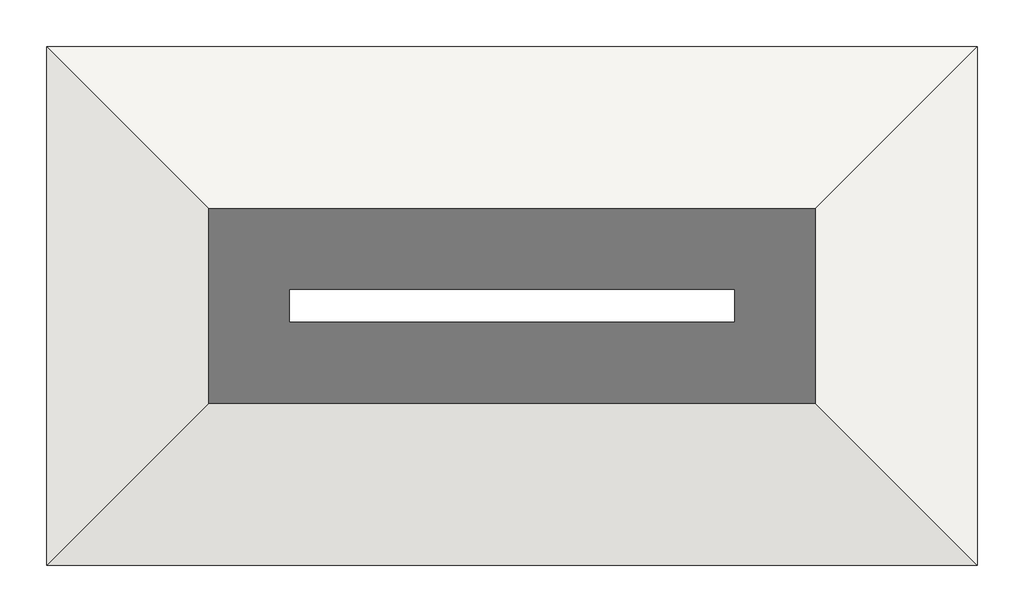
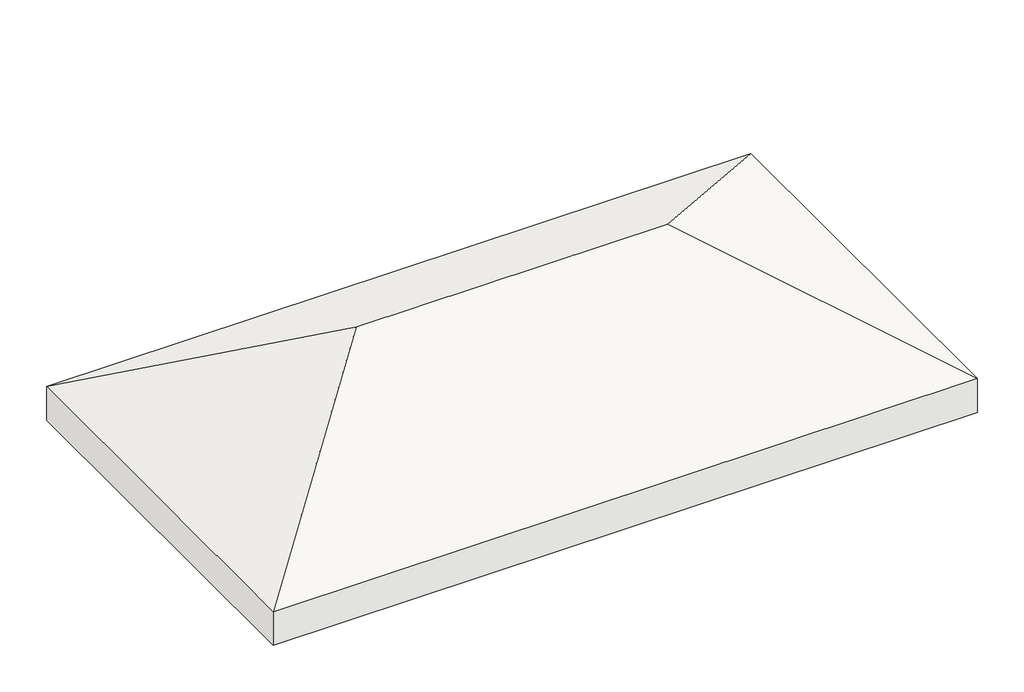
# One storey: 1 roof.
"""IFC4 building model written with IfcOpenShell, lengths in millimetres."""

from ifc_helpers import new_model, si_unit, origin, place, context, project, spatial, faceted_brep, element, save

model = new_model("IFC4")

# Units and contexts
model_context = context("Model", 3, world=origin())
ifc_project = project(units=[si_unit("LENGTHUNIT", "METRE", prefix="MILLI")], contexts=[model_context])

# Site, building, storey
site = spatial("IfcSite", under=ifc_project)
building = spatial("IfcBuilding", under=site)
storey = spatial("IfcBuildingStorey", under=building, Name="Arase de mur", Elevation=2700.0)

# Roof
placement = place(None, origin())
element("IfcRoof", 1, ObjectType="Générique  - 400 mm", at=placement, inside=storey, context=model_context, shape_type="Brep", body=[
    faceted_brep([(562.9561003, 4003.2951017, 3990.3778516), (3097.9561003, 6538.2951017, 2526.7949192), (3097.9561003, 1468.2951017, 2526.7949192), (-6002.0438997, 6538.2951017, 2526.7949192), (-3467.0438997, 4003.2951017, 3990.3778516), (-6002.0438997, 1468.2951017, 2526.7949192), (3097.9561003, 6538.2951017, 2988.6751346), (562.9561003, 4003.2951017, 4452.258067), (3097.9561003, 1468.2951017, 2988.6751346), (-6002.0438997, 6538.2951017, 2988.6751346), (-6002.0438997, 1468.2951017, 2988.6751346), (-3467.0438997, 4003.2951017, 4452.258067)], [[[0, 1, 2]], [[3, 4, 5]], [[1, 0, 4, 3]], [[5, 4, 0, 2]], [[6, 7, 8]], [[9, 10, 11]], [[6, 9, 11, 7]], [[10, 8, 7, 11]], [[3, 9, 6, 1]], [[5, 10, 9, 3]], [[2, 8, 10, 5]], [[1, 6, 8, 2]]]),
])

save(model, "model.ifc")
